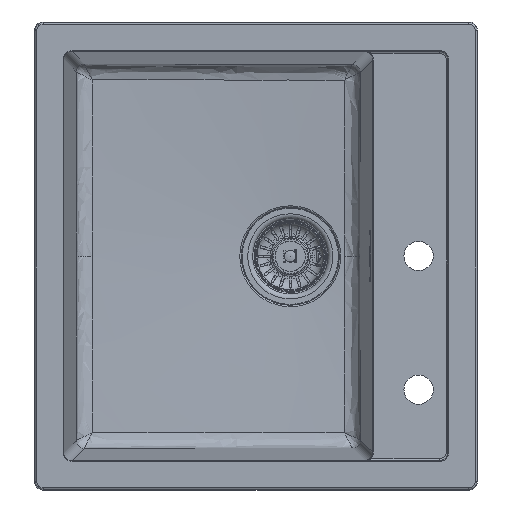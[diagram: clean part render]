
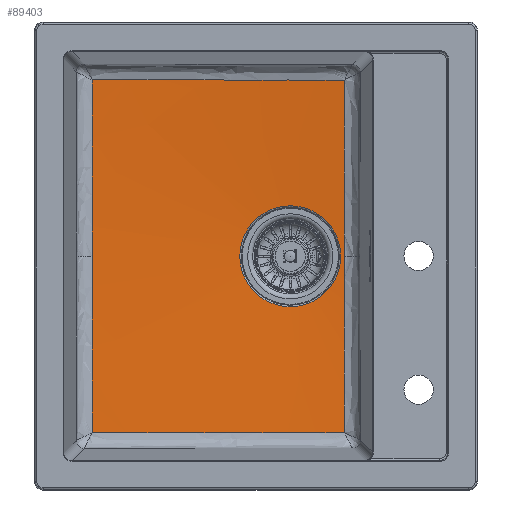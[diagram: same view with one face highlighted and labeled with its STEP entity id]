
A CAD part, top view. The second image highlights one B-rep face of the part: STEP entity #89403.
In plain terms, the highlighted conical face has half-angle 87 degrees and reference radius 228.5 mm.
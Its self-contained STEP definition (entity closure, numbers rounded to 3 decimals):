
#2763=B_SPLINE_CURVE_WITH_KNOTS('',3,(#142506,#142507,#142508,#142509,#142510),
 .UNSPECIFIED.,.F.,.F.,(4,1,4),(9.226,14.595,23.041),
 .UNSPECIFIED.);
#2764=B_SPLINE_CURVE_WITH_KNOTS('',3,(#142512,#142513,#142514,#142515),
 .UNSPECIFIED.,.F.,.F.,(4,4),(2.,9.226),
 .UNSPECIFIED.);
#2766=B_SPLINE_CURVE_WITH_KNOTS('',3,(#142571,#142572,#142573,#142574,#142575,
#142576),.UNSPECIFIED.,.F.,.F.,(4,1,1,4),(4.463,21.793,
26.376,34.543),.UNSPECIFIED.);
#2770=B_SPLINE_CURVE_WITH_KNOTS('',3,(#142654,#142655,#142656,#142657,#142658,
#142659,#142660),.UNSPECIFIED.,.F.,.F.,(4,1,1,1,4),(4.474,12.906,
19.195,22.339,25.484),.UNSPECIFIED.);
#3056=B_SPLINE_CURVE_WITH_KNOTS('',3,(#149454,#149455,#149456,#149457,#149458,
#149459,#149460),.UNSPECIFIED.,.F.,.F.,(4,1,1,1,4),(4.474,12.906,
19.195,22.339,25.484),.UNSPECIFIED.);
#3057=B_SPLINE_CURVE_WITH_KNOTS('',3,(#149462,#149463,#149464,#149465,#149466,
#149467),.UNSPECIFIED.,.F.,.F.,(4,1,1,4),(4.463,21.793,
26.376,34.543),.UNSPECIFIED.);
#3058=B_SPLINE_CURVE_WITH_KNOTS('',3,(#149469,#149470,#149471,#149472,#149473),
 .UNSPECIFIED.,.F.,.F.,(4,1,4),(9.226,14.595,23.041),
 .UNSPECIFIED.);
#3059=B_SPLINE_CURVE_WITH_KNOTS('',3,(#149474,#149475,#149476,#149477),
 .UNSPECIFIED.,.F.,.F.,(4,4),(2.,9.226),
 .UNSPECIFIED.);
#18578=CONICAL_SURFACE('',#95087,228.5,87.);
#22060=FACE_BOUND('',#30226,.T.);
#25090=FACE_OUTER_BOUND('',#30225,.T.);
#30225=EDGE_LOOP('',(#70709,#70710,#70711,#70712,#70713,#70714,#70715,#70716));
#30226=EDGE_LOOP('',(#70717));
#33650=CIRCLE('',#95086,60.395);
#39299=VERTEX_POINT('',#142273);
#39304=VERTEX_POINT('',#142426);
#39307=VERTEX_POINT('',#142505);
#39308=VERTEX_POINT('',#142511);
#39310=VERTEX_POINT('',#142640);
#39837=VERTEX_POINT('',#149450);
#39838=VERTEX_POINT('',#149453);
#39839=VERTEX_POINT('',#149461);
#39840=VERTEX_POINT('',#149468);
#49807=EDGE_CURVE('',#39307,#39304,#2763,.T.);
#49808=EDGE_CURVE('',#39308,#39307,#2764,.T.);
#49810=EDGE_CURVE('',#39304,#39299,#2766,.T.);
#49814=EDGE_CURVE('',#39299,#39310,#2770,.T.);
#50682=EDGE_CURVE('',#39837,#39837,#33650,.T.);
#50683=EDGE_CURVE('',#39838,#39310,#3056,.T.);
#50684=EDGE_CURVE('',#39839,#39838,#3057,.T.);
#50685=EDGE_CURVE('',#39840,#39839,#3058,.T.);
#50686=EDGE_CURVE('',#39308,#39840,#3059,.T.);
#70709=ORIENTED_EDGE('',*,*,#50683,.F.);
#70710=ORIENTED_EDGE('',*,*,#50684,.F.);
#70711=ORIENTED_EDGE('',*,*,#50685,.F.);
#70712=ORIENTED_EDGE('',*,*,#50686,.F.);
#70713=ORIENTED_EDGE('',*,*,#49808,.T.);
#70714=ORIENTED_EDGE('',*,*,#49807,.T.);
#70715=ORIENTED_EDGE('',*,*,#49810,.T.);
#70716=ORIENTED_EDGE('',*,*,#49814,.T.);
#70717=ORIENTED_EDGE('',*,*,#50682,.F.);
#89403=ADVANCED_FACE('',(#25090,#22060),#18578,.F.);
#95086=AXIS2_PLACEMENT_3D('',#149451,#109891,#109892);
#95087=AXIS2_PLACEMENT_3D('',#149452,#109893,#109894);
#109891=DIRECTION('center_axis',(0.,0.,
1.));
#109892=DIRECTION('ref_axis',(0.,1.,0.));
#109893=DIRECTION('center_axis',(0.,0.,
1.));
#109894=DIRECTION('ref_axis',(0.,1.,0.));
#142273=CARTESIAN_POINT('',(93.661,-210.917,-183.504));
#142426=CARTESIAN_POINT('',(-208.142,-211.057,-178.429));
#142505=CARTESIAN_POINT('',(-208.042,-72.563,-182.069));
#142506=CARTESIAN_POINT('Ctrl Pts',(-208.042,-72.563,
-182.069));
#142507=CARTESIAN_POINT('Ctrl Pts',(-208.045,-90.527,
-181.794));
#142508=CARTESIAN_POINT('Ctrl Pts',(-208.059,-136.733,
-180.852));
#142509=CARTESIAN_POINT('Ctrl Pts',(-208.103,-182.868,
-179.414));
#142510=CARTESIAN_POINT('Ctrl Pts',(-208.143,-211.057,
-178.429));
#142511=CARTESIAN_POINT('',(-208.039,0.,-182.643));
#142512=CARTESIAN_POINT('Ctrl Pts',(-208.039,0.,
-182.643));
#142513=CARTESIAN_POINT('Ctrl Pts',(-208.039,-24.194,
-182.643));
#142514=CARTESIAN_POINT('Ctrl Pts',(-208.038,-48.385,
-182.439));
#142515=CARTESIAN_POINT('Ctrl Pts',(-208.042,-72.563,
-182.069));
#142571=CARTESIAN_POINT('Ctrl Pts',(-208.142,-211.057,
-178.429));
#142572=CARTESIAN_POINT('Ctrl Pts',(-150.337,-210.954,
-180.7));
#142573=CARTESIAN_POINT('Ctrl Pts',(-77.154,-210.906,
-183.154));
#142574=CARTESIAN_POINT('Ctrl Pts',(23.601,-210.923,
-184.191));
#142575=CARTESIAN_POINT('Ctrl Pts',(66.319,-210.917,
-183.923));
#142576=CARTESIAN_POINT('Ctrl Pts',(93.661,-210.917,
-183.504));
#142640=CARTESIAN_POINT('',(93.686,0.,-191.676));
#142654=CARTESIAN_POINT('Ctrl Pts',(93.661,-210.917,-183.505));
#142655=CARTESIAN_POINT('Ctrl Pts',(93.574,-182.837,-184.914));
#142656=CARTESIAN_POINT('Ctrl Pts',(93.446,-133.799,
-187.335));
#142657=CARTESIAN_POINT('Ctrl Pts',(93.447,-74.186,
-190.014));
#142658=CARTESIAN_POINT('Ctrl Pts',(93.614,-31.951,
-191.391));
#142659=CARTESIAN_POINT('Ctrl Pts',(93.686,-10.654,
-191.676));
#142660=CARTESIAN_POINT('Ctrl Pts',(93.686,0.,
-191.676));
#149450=CARTESIAN_POINT('',(89.395,0.,-191.901));
#149451=CARTESIAN_POINT('Origin',(29.,0.,
-191.901));
#149452=CARTESIAN_POINT('Origin',(29.,0.,
-183.091));
#149453=CARTESIAN_POINT('',(93.661,210.917,-183.504));
#149454=CARTESIAN_POINT('Ctrl Pts',(93.661,210.917,-183.505));
#149455=CARTESIAN_POINT('Ctrl Pts',(93.574,182.837,-184.914));
#149456=CARTESIAN_POINT('Ctrl Pts',(93.446,133.799,-187.335));
#149457=CARTESIAN_POINT('Ctrl Pts',(93.447,74.186,-190.014));
#149458=CARTESIAN_POINT('Ctrl Pts',(93.614,31.951,-191.391));
#149459=CARTESIAN_POINT('Ctrl Pts',(93.686,10.654,-191.676));
#149460=CARTESIAN_POINT('Ctrl Pts',(93.686,0.,
-191.676));
#149461=CARTESIAN_POINT('',(-208.142,211.057,-178.429));
#149462=CARTESIAN_POINT('Ctrl Pts',(-208.142,211.057,
-178.429));
#149463=CARTESIAN_POINT('Ctrl Pts',(-150.337,210.954,
-180.7));
#149464=CARTESIAN_POINT('Ctrl Pts',(-77.154,210.906,
-183.154));
#149465=CARTESIAN_POINT('Ctrl Pts',(23.601,210.923,-184.191));
#149466=CARTESIAN_POINT('Ctrl Pts',(66.319,210.917,-183.923));
#149467=CARTESIAN_POINT('Ctrl Pts',(93.661,210.917,-183.504));
#149468=CARTESIAN_POINT('',(-208.042,72.563,-182.069));
#149469=CARTESIAN_POINT('Ctrl Pts',(-208.042,72.563,
-182.069));
#149470=CARTESIAN_POINT('Ctrl Pts',(-208.045,90.527,
-181.794));
#149471=CARTESIAN_POINT('Ctrl Pts',(-208.059,136.733,
-180.852));
#149472=CARTESIAN_POINT('Ctrl Pts',(-208.103,182.868,
-179.414));
#149473=CARTESIAN_POINT('Ctrl Pts',(-208.143,211.057,
-178.429));
#149474=CARTESIAN_POINT('Ctrl Pts',(-208.039,0.,
-182.643));
#149475=CARTESIAN_POINT('Ctrl Pts',(-208.039,24.194,
-182.643));
#149476=CARTESIAN_POINT('Ctrl Pts',(-208.038,48.385,
-182.439));
#149477=CARTESIAN_POINT('Ctrl Pts',(-208.042,72.563,
-182.069));
